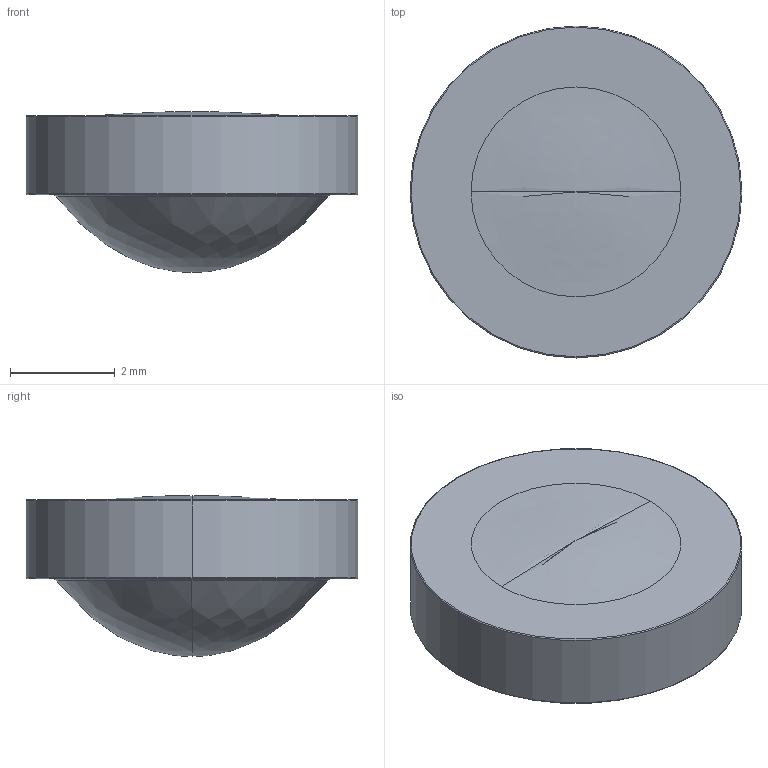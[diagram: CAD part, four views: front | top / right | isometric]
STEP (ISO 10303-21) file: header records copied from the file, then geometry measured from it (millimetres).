
FILE_DESCRIPTION((''),'2;1');
FILE_NAME('352340','2025-07-24T20:14:45',('admin'),('LIGHTPATH'),'CREO PARAMETRIC BY PTC INC, 2024063','CREO PARAMETRIC BY PTC INC, 2024063','');
FILE_SCHEMA(('CONFIG_CONTROL_DESIGN'));
Length unit declared in the file: millimetre
Products named in the file (1): 352340
Bounding box: 6.33 x 6.33 x 3.07 mm (x, y, z)
Volume: 64.3 mm3; surface area: 98.6 mm2
Topology: 1 solids, 1 shells, 14 faces, 30 edges, 16 vertices
Faces by surface type: torus 6, revolution 4, plane 2, cylinder 2
Entity records: 1458 total; most frequent: CARTESIAN_POINT 1126, DIRECTION 66, ORIENTED_EDGE 52, AXIS2_PLACEMENT_3D 30, EDGE_CURVE 26, CIRCLE 20, VERTEX_POINT 16, EDGE_LOOP 16
